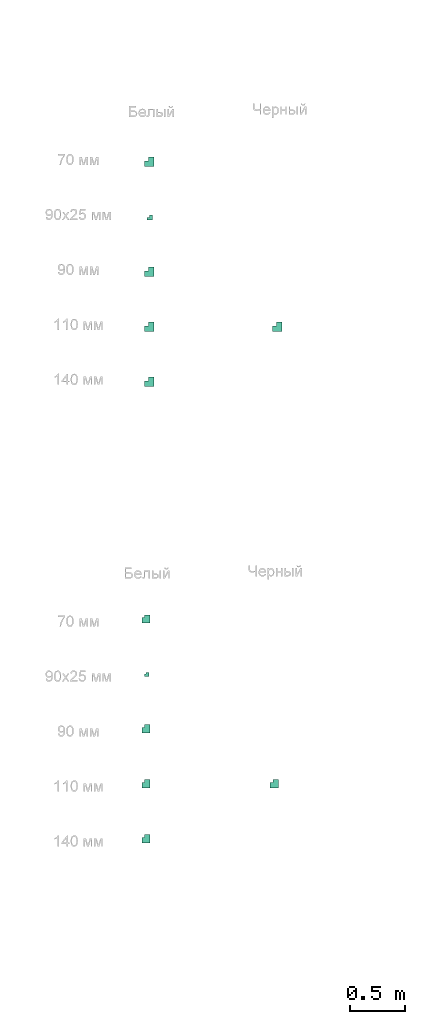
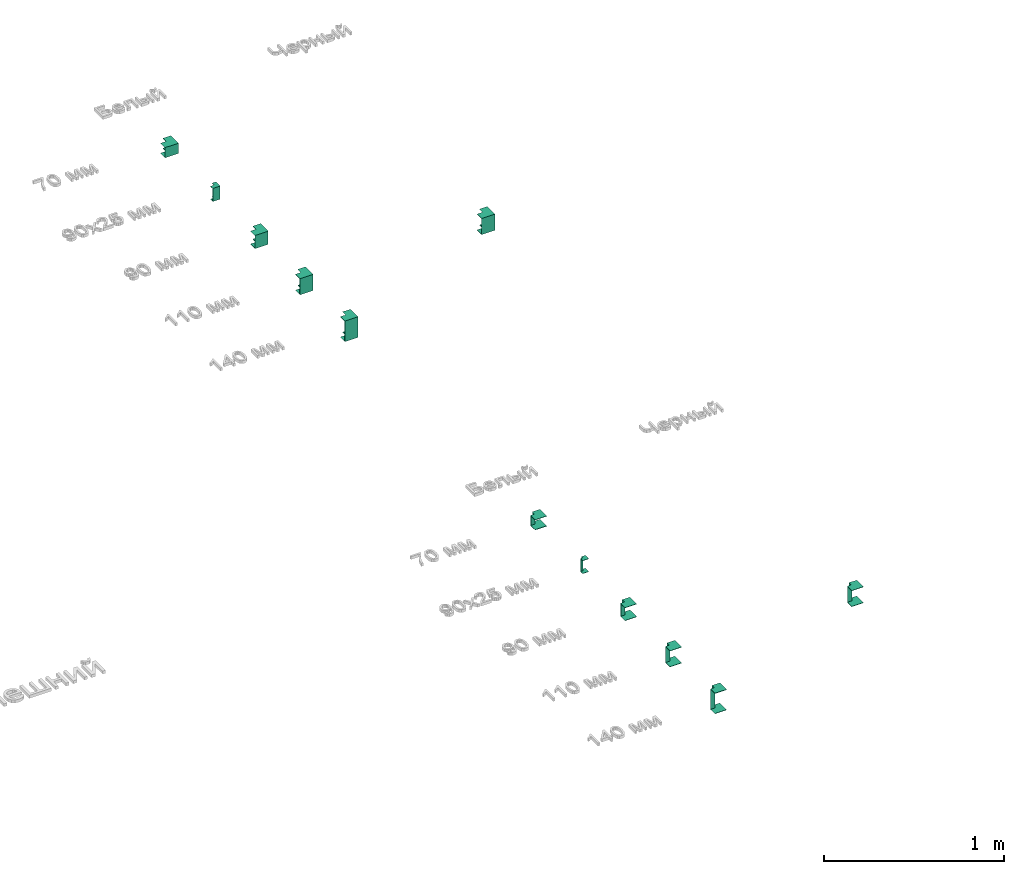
# One storey, part 18 of 87: 12 flow fittings.
"""IFC2X3 building model written with IfcOpenShell, lengths in millimetres."""

from ifc_helpers import new_model, entity, si_unit, converted_unit, derived_unit, direction, frame, origin, place, context, subcontext, project, spatial, faceted_brep, source, transform, mapped, material, type_object, type_shapes, element, save


model = new_model("IFC2X3")

# Units and contexts
model_context = context("Model", 3, precision=0.01, world=origin(), true_north=direction((6.12303176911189e-17, 1.0)))
body_context = subcontext(model_context, "Body", "Model", "MODEL_VIEW")
ifc_project = project(units=[si_unit("LENGTHUNIT", "METRE", prefix="MILLI"), si_unit("AREAUNIT", "SQUARE_METRE"), si_unit("VOLUMEUNIT", "CUBIC_METRE"), converted_unit("PLANEANGLEUNIT", "DEGREE", entity("IfcRatioMeasure", 0.0174532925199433), si_unit("PLANEANGLEUNIT", "RADIAN"), dimensions=[0, 0, 0, 0, 0, 0, 0]), si_unit("MASSUNIT", "GRAM", prefix="KILO"), derived_unit("MASSDENSITYUNIT", [(si_unit("MASSUNIT", "GRAM", prefix="KILO"), 1), (si_unit("LENGTHUNIT", "METRE"), -3)]), si_unit("TIMEUNIT", "SECOND"), si_unit("FREQUENCYUNIT", "HERTZ"), si_unit("THERMODYNAMICTEMPERATUREUNIT", "DEGREE_CELSIUS"), derived_unit("THERMALTRANSMITTANCEUNIT", [(si_unit("MASSUNIT", "GRAM", prefix="KILO"), 1), (si_unit("THERMODYNAMICTEMPERATUREUNIT", "KELVIN"), -1), (si_unit("TIMEUNIT", "SECOND"), -3)]), derived_unit("VOLUMETRICFLOWRATEUNIT", [(si_unit("LENGTHUNIT", "METRE"), 3), (si_unit("TIMEUNIT", "SECOND"), -1)]), si_unit("ELECTRICCURRENTUNIT", "AMPERE"), si_unit("ELECTRICVOLTAGEUNIT", "VOLT"), si_unit("POWERUNIT", "WATT"), si_unit("FORCEUNIT", "NEWTON", prefix="KILO"), si_unit("ILLUMINANCEUNIT", "LUX"), si_unit("LUMINOUSFLUXUNIT", "LUMEN"), si_unit("LUMINOUSINTENSITYUNIT", "CANDELA"), derived_unit("USERDEFINED", [(si_unit("MASSUNIT", "GRAM", prefix="KILO"), -1), (si_unit("LENGTHUNIT", "METRE"), -2), (si_unit("TIMEUNIT", "SECOND"), 3), (si_unit("LUMINOUSFLUXUNIT", "LUMEN"), 1)]), derived_unit("LINEARVELOCITYUNIT", [(si_unit("LENGTHUNIT", "METRE"), 1), (si_unit("TIMEUNIT", "SECOND"), -1)]), si_unit("PRESSUREUNIT", "PASCAL"), derived_unit("USERDEFINED", [(si_unit("LENGTHUNIT", "METRE"), -2), (si_unit("MASSUNIT", "GRAM", prefix="KILO"), 1), (si_unit("TIMEUNIT", "SECOND"), -2)])], contexts=[model_context])

# Site, building, storey
site_placement = place(None, origin())
site = spatial("IfcSite", under=ifc_project, at=site_placement, Name="Default", CompositionType="ELEMENT")
building_placement = place(site_placement, origin())
building = spatial("IfcBuilding", under=site, at=building_placement, Name="Наименование здания", CompositionType="ELEMENT")
storey_placement = place(building_placement, origin())
storey = spatial("IfcBuildingStorey", under=building, at=storey_placement, Name="Этаж 01", CompositionType="ELEMENT", Elevation=0.0)

# Flow fittings
ifc_material_1 = material(Name="DKC_Пластик_Белый")
cable_carrier_fitting_type_1 = type_object("IfcCableCarrierFittingType", Name="Белый", PredefinedType="NOTDEFINED", material=ifc_material_1)
shared_shape_1 = source(origin(), body_context, "Body", "Brep", [
    faceted_brep([(-60.0, -25.0, 35.0), (-60.0, 25.0, 35.0), (-60.0, 25.0, 32.5000000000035), (-60.0, -22.4999999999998, 32.5000000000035), (-60.0, -22.4999999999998, -32.4999999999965), (-60.0, 25.0, -32.4999999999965), (-60.0, 25.0, -35.0), (-60.0, -25.0, -35.0), (25.0, 60.0, 35.0), (25.0, 60.0, -35.0), (-25.0, 60.0, -35.0), (-25.0, 60.0, -32.4999999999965), (22.5000000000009, 60.0, -32.4999999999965), (22.5000000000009, 60.0, 32.5000000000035), (-25.0, 60.0, 32.5000000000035), (-25.0, 60.0, 35.0), (25.0, -25.0, 35.0), (-25.0, 25.0, 35.0), (-25.0, 25.0, 32.5000000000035), (22.5000000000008, -22.5000000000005, 32.5000000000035), (22.5000000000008, -22.5000000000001, -32.4999999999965), (-25.0, 25.0, -32.4999999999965), (-25.0, 25.0, -35.0), (25.0, -25.0, -35.0)], [[[0, 1, 2, 3, 4, 5, 6, 7]], [[8, 9, 10, 11, 12, 13, 14, 15]], [[1, 0, 16, 8, 15, 17]], [[2, 1, 17, 18]], [[3, 2, 18, 14, 13, 19]], [[4, 3, 19, 20]], [[5, 4, 20, 12, 11, 21]], [[6, 5, 21, 22]], [[7, 6, 22, 10, 9, 23]], [[0, 7, 23, 16]], [[18, 17, 15, 14]], [[20, 19, 13, 12]], [[22, 21, 11, 10]], [[16, 23, 9, 8]]]),
])
type_shapes(cable_carrier_fitting_type_1, [shared_shape_1])
flow_fitting_1_placement = place(storey_placement, frame((13049.1175194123, -9012.43030677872, 0.0)))
element("IfcFlowFitting", 1, at=flow_fitting_1_placement, inside=storey, type_object=cable_carrier_fitting_type_1, material=ifc_material_1, Name="КНС_УголВнутренний_ILF_DKC:Белый", ObjectType="Белый", context=body_context, shape_type="MappedRepresentation", body=[
    mapped(shared_shape_1, transform((0.0, 0.0, 0.0), scale=1.0)),
])
cable_carrier_fitting_type_2 = type_object("IfcCableCarrierFittingType", Name="Белый", PredefinedType="NOTDEFINED", material=ifc_material_1)
shared_shape_2 = source(origin(), body_context, "Body", "Brep", [
    faceted_brep([(-50.0, 25.0, 35.0), (-50.0, 25.0, -35.0), (-50.0, -25.0, -35.0), (-50.0, -25.0, -32.4999999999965), (-50.0, 22.5000000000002, -32.4999999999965), (-50.0, 22.5000000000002, 32.5000000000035), (-50.0, -25.0, 32.5000000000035), (-50.0, -25.0, 35.0), (-25.0, 50.0, 35.0), (25.0, 50.0, 35.0), (25.0, 50.0, 32.5000000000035), (-22.499999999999, 50.0, 32.5000000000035), (-22.499999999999, 50.0, -32.4999999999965), (25.0, 50.0, -32.4999999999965), (25.0, 50.0, -35.0), (-25.0, 50.0, -35.0), (-25.0, 25.0, 35.0), (-25.0, 25.0, -35.0), (25.0, -25.0, -35.0), (25.0, -25.0, -32.4999999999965), (-22.4999999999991, 22.4999999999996, -32.4999999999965), (-22.4999999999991, 22.5000000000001, 32.5000000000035), (25.0, -25.0, 32.5000000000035), (25.0, -25.0, 35.0)], [[[0, 1, 2, 3, 4, 5, 6, 7]], [[8, 9, 10, 11, 12, 13, 14, 15]], [[1, 0, 16, 17]], [[2, 1, 17, 15, 14, 18]], [[3, 2, 18, 19]], [[4, 3, 19, 13, 12, 20]], [[5, 4, 20, 21]], [[6, 5, 21, 11, 10, 22]], [[7, 6, 22, 23]], [[0, 7, 23, 9, 8, 16]], [[17, 16, 8, 15]], [[19, 18, 14, 13]], [[21, 20, 12, 11]], [[23, 22, 10, 9]]]),
])
type_shapes(cable_carrier_fitting_type_2, [shared_shape_2])
flow_fitting_2_placement = place(storey_placement, frame((13017.1547740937, -13165.7198788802, 0.0)))
element("IfcFlowFitting", 2, at=flow_fitting_2_placement, inside=storey, type_object=cable_carrier_fitting_type_2, material=ifc_material_1, Name="КНС_УголВнешний_ILF_DKC:Белый", ObjectType="Белый", context=body_context, shape_type="MappedRepresentation", body=[
    mapped(shared_shape_2, transform((0.0, 0.0, 0.0), scale=1.0)),
])
cable_carrier_fitting_type_3 = type_object("IfcCableCarrierFittingType", Name="Белый", PredefinedType="NOTDEFINED", material=ifc_material_1)
shared_shape_3 = source(origin(), body_context, "Body", "Brep", [
    faceted_brep([(-35.0, -12.4999999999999, 45.0), (-35.0, 12.5000000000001, 45.0), (-35.0, 12.5000000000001, 42.5000000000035), (-35.0, -10.0, 42.5000000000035), (-35.0, -10.0, -42.4999999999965), (-35.0, 12.5000000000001, -42.4999999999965), (-35.0, 12.5000000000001, -45.0), (-35.0, -12.4999999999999, -45.0), (12.5000000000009, 35.0, 45.0), (12.5000000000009, 35.0, -45.0), (-12.4999999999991, 35.0, -45.0), (-12.4999999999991, 35.0, -42.4999999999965), (10.0, 35.0, -42.4999999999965), (10.0, 35.0, 42.5000000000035), (-12.4999999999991, 35.0, 42.5000000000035), (-12.4999999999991, 35.0, 45.0), (12.5000000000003, -12.5, 45.0), (-12.4999999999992, 12.4999999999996, 45.0), (-12.4999999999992, 12.5, 42.5000000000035), (10.0, -10.0, 42.5000000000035), (10.0, -10.0, -42.4999999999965), (-12.4999999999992, 12.4999999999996, -42.4999999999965), (-12.4999999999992, 12.5, -45.0), (12.5000000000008, -12.5000000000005, -45.0)], [[[0, 1, 2, 3, 4, 5, 6, 7]], [[8, 9, 10, 11, 12, 13, 14, 15]], [[1, 0, 16, 8, 15, 17]], [[2, 1, 17, 18]], [[3, 2, 18, 14, 13, 19]], [[4, 3, 19, 20]], [[5, 4, 20, 12, 11, 21]], [[6, 5, 21, 22]], [[7, 6, 22, 10, 9, 23]], [[0, 7, 23, 16]], [[18, 17, 15, 14]], [[20, 19, 13, 12]], [[22, 21, 11, 10]], [[16, 23, 9, 8]]]),
])
type_shapes(cable_carrier_fitting_type_3, [shared_shape_3])
flow_fitting_3_placement = place(storey_placement, frame((13049.1175194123, -9512.43030677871, 0.0)))
element("IfcFlowFitting", 3, at=flow_fitting_3_placement, inside=storey, type_object=cable_carrier_fitting_type_3, material=ifc_material_1, Name="КНС_УголВнутренний_ILF_DKC:Белый", ObjectType="Белый", context=body_context, shape_type="MappedRepresentation", body=[
    mapped(shared_shape_3, transform((0.0, 0.0, 0.0), scale=1.0)),
])
cable_carrier_fitting_type_4 = type_object("IfcCableCarrierFittingType", Name="Белый", PredefinedType="NOTDEFINED", material=ifc_material_1)
shared_shape_4 = source(origin(), body_context, "Body", "Brep", [
    faceted_brep([(-60.0, -25.0, 45.0), (-60.0, 25.0, 45.0), (-60.0, 25.0, 42.5000000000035), (-60.0, -22.4999999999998, 42.5000000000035), (-60.0, -22.4999999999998, -42.4999999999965), (-60.0, 25.0, -42.4999999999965), (-60.0, 25.0, -45.0), (-60.0, -25.0, -45.0), (25.0, 60.0, 45.0), (25.0, 60.0, -45.0), (-25.0, 60.0, -45.0), (-25.0, 60.0, -42.4999999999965), (22.5000000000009, 60.0, -42.4999999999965), (22.5000000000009, 60.0, 42.5000000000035), (-25.0, 60.0, 42.5000000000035), (-25.0, 60.0, 45.0), (25.0, -25.0, 45.0), (-25.0, 25.0, 45.0), (-25.0, 25.0, 42.5000000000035), (22.5000000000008, -22.5000000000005, 42.5000000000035), (22.5000000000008, -22.5000000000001, -42.4999999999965), (-25.0, 25.0, -42.4999999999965), (-25.0, 25.0, -45.0), (25.0, -25.0, -45.0)], [[[0, 1, 2, 3, 4, 5, 6, 7]], [[8, 9, 10, 11, 12, 13, 14, 15]], [[1, 0, 16, 8, 15, 17]], [[2, 1, 17, 18]], [[3, 2, 18, 14, 13, 19]], [[4, 3, 19, 20]], [[5, 4, 20, 12, 11, 21]], [[6, 5, 21, 22]], [[7, 6, 22, 10, 9, 23]], [[0, 7, 23, 16]], [[18, 17, 15, 14]], [[20, 19, 13, 12]], [[22, 21, 11, 10]], [[16, 23, 9, 8]]]),
])
type_shapes(cable_carrier_fitting_type_4, [shared_shape_4])
flow_fitting_4_placement = place(storey_placement, frame((13049.1175194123, -10012.4303067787, 0.0)))
element("IfcFlowFitting", 4, at=flow_fitting_4_placement, inside=storey, type_object=cable_carrier_fitting_type_4, material=ifc_material_1, Name="КНС_УголВнутренний_ILF_DKC:Белый", ObjectType="Белый", context=body_context, shape_type="MappedRepresentation", body=[
    mapped(shared_shape_4, transform((0.0, 0.0, 0.0), scale=1.0)),
])
cable_carrier_fitting_type_5 = type_object("IfcCableCarrierFittingType", Name="Белый", PredefinedType="NOTDEFINED", material=ifc_material_1)
shared_shape_5 = source(origin(), body_context, "Body", "Brep", [
    faceted_brep([(-60.0, -25.0, 55.0), (-60.0, 25.0, 55.0), (-60.0, 25.0, 52.5000000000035), (-60.0, -22.4999999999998, 52.5000000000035), (-60.0, -22.4999999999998, -52.4999999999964), (-60.0, 25.0, -52.4999999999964), (-60.0, 25.0, -55.0), (-60.0, -25.0, -55.0), (25.0, 60.0, 55.0), (25.0, 60.0, -55.0), (-25.0, 60.0, -55.0), (-25.0, 60.0, -52.4999999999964), (22.5000000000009, 60.0, -52.4999999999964), (22.5000000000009, 60.0, 52.5000000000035), (-25.0, 60.0, 52.5000000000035), (-25.0, 60.0, 55.0), (25.0, -25.0, 55.0), (-25.0, 25.0, 55.0), (-25.0, 25.0, 52.5000000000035), (22.5000000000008, -22.5000000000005, 52.5000000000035), (22.5000000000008, -22.5000000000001, -52.4999999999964), (-25.0, 25.0, -52.4999999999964), (-25.0, 25.0, -55.0), (25.0, -25.0, -55.0)], [[[0, 1, 2, 3, 4, 5, 6, 7]], [[8, 9, 10, 11, 12, 13, 14, 15]], [[1, 0, 16, 8, 15, 17]], [[2, 1, 17, 18]], [[3, 2, 18, 14, 13, 19]], [[4, 3, 19, 20]], [[5, 4, 20, 12, 11, 21]], [[6, 5, 21, 22]], [[7, 6, 22, 10, 9, 23]], [[0, 7, 23, 16]], [[18, 17, 15, 14]], [[20, 19, 13, 12]], [[22, 21, 11, 10]], [[16, 23, 9, 8]]]),
])
type_shapes(cable_carrier_fitting_type_5, [shared_shape_5])
flow_fitting_5_placement = place(storey_placement, frame((13049.1175194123, -10512.4303067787, 0.0)))
element("IfcFlowFitting", 5, at=flow_fitting_5_placement, inside=storey, type_object=cable_carrier_fitting_type_5, material=ifc_material_1, Name="КНС_УголВнутренний_ILF_DKC:Белый", ObjectType="Белый", context=body_context, shape_type="MappedRepresentation", body=[
    mapped(shared_shape_5, transform((0.0, 0.0, 0.0), scale=1.0)),
])
cable_carrier_fitting_type_6 = type_object("IfcCableCarrierFittingType", Name="Белый", PredefinedType="NOTDEFINED", material=ifc_material_1)
shared_shape_6 = source(origin(), body_context, "Body", "Brep", [
    faceted_brep([(-60.0, -25.0, 70.0), (-60.0, 25.0, 70.0), (-60.0, 25.0, 67.5000000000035), (-60.0, -22.4999999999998, 67.5000000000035), (-60.0, -22.4999999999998, -67.4999999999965), (-60.0, 25.0, -67.4999999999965), (-60.0, 25.0, -70.0), (-60.0, -25.0, -70.0), (25.0, 60.0, 70.0), (25.0, 60.0, -70.0), (-25.0, 60.0, -70.0), (-25.0, 60.0, -67.4999999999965), (22.5000000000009, 60.0, -67.4999999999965), (22.5000000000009, 60.0, 67.5000000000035), (-25.0, 60.0, 67.5000000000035), (-25.0, 60.0, 70.0), (25.0, -25.0, 70.0), (-25.0, 25.0, 70.0), (-25.0, 25.0, 67.5000000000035), (22.5000000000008, -22.5000000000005, 67.5000000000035), (22.5000000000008, -22.5000000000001, -67.4999999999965), (-25.0, 25.0, -67.4999999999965), (-25.0, 25.0, -70.0), (25.0, -25.0, -70.0)], [[[0, 1, 2, 3, 4, 5, 6, 7]], [[8, 9, 10, 11, 12, 13, 14, 15]], [[1, 0, 16, 8, 15, 17]], [[2, 1, 17, 18]], [[3, 2, 18, 14, 13, 19]], [[4, 3, 19, 20]], [[5, 4, 20, 12, 11, 21]], [[6, 5, 21, 22]], [[7, 6, 22, 10, 9, 23]], [[0, 7, 23, 16]], [[18, 17, 15, 14]], [[20, 19, 13, 12]], [[22, 21, 11, 10]], [[16, 23, 9, 8]]]),
])
type_shapes(cable_carrier_fitting_type_6, [shared_shape_6])
flow_fitting_6_placement = place(storey_placement, frame((13049.1175194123, -11012.4303067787, 0.0)))
element("IfcFlowFitting", 6, at=flow_fitting_6_placement, inside=storey, type_object=cable_carrier_fitting_type_6, material=ifc_material_1, Name="КНС_УголВнутренний_ILF_DKC:Белый", ObjectType="Белый", context=body_context, shape_type="MappedRepresentation", body=[
    mapped(shared_shape_6, transform((0.0, 0.0, 0.0), scale=1.0)),
])
ifc_material_2 = material(Name="DKC_Пластик_Серо-черный")
cable_carrier_fitting_type_7 = type_object("IfcCableCarrierFittingType", Name="Черный", PredefinedType="NOTDEFINED", material=ifc_material_2)
shared_shape_7 = source(origin(), body_context, "Body", "Brep", [
    faceted_brep([(-60.0, -25.0, 55.0), (-60.0, 25.0, 55.0), (-60.0, 25.0, 52.5000000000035), (-60.0, -22.4999999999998, 52.5000000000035), (-60.0, -22.4999999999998, -52.4999999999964), (-60.0, 25.0, -52.4999999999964), (-60.0, 25.0, -55.0), (-60.0, -25.0, -55.0), (25.0, 60.0, 55.0), (25.0, 60.0, -55.0), (-25.0, 60.0, -55.0), (-25.0, 60.0, -52.4999999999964), (22.5000000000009, 60.0, -52.4999999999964), (22.5000000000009, 60.0, 52.5000000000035), (-25.0, 60.0, 52.5000000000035), (-25.0, 60.0, 55.0), (25.0, -25.0, 55.0), (-25.0, 25.0, 55.0), (-25.0, 25.0, 52.5000000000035), (22.5000000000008, -22.5000000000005, 52.5000000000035), (22.5000000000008, -22.5000000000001, -52.4999999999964), (-25.0, 25.0, -52.4999999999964), (-25.0, 25.0, -55.0), (25.0, -25.0, -55.0)], [[[0, 1, 2, 3, 4, 5, 6, 7]], [[8, 9, 10, 11, 12, 13, 14, 15]], [[1, 0, 16, 8, 15, 17]], [[2, 1, 17, 18]], [[3, 2, 18, 14, 13, 19]], [[4, 3, 19, 20]], [[5, 4, 20, 12, 11, 21]], [[6, 5, 21, 22]], [[7, 6, 22, 10, 9, 23]], [[0, 7, 23, 16]], [[18, 17, 15, 14]], [[20, 19, 13, 12]], [[22, 21, 11, 10]], [[16, 23, 9, 8]]]),
])
type_shapes(cable_carrier_fitting_type_7, [shared_shape_7])
flow_fitting_7_placement = place(storey_placement, frame((14215.9370915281, -10512.4303067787, 0.0)))
element("IfcFlowFitting", 7, at=flow_fitting_7_placement, inside=storey, type_object=cable_carrier_fitting_type_7, material=ifc_material_2, Name="КНС_УголВнутренний_ILF_DKC:Черный", ObjectType="Черный", context=body_context, shape_type="MappedRepresentation", body=[
    mapped(shared_shape_7, transform((0.0, 0.0, 0.0), scale=1.0)),
])
cable_carrier_fitting_type_8 = type_object("IfcCableCarrierFittingType", Name="Белый", PredefinedType="NOTDEFINED", material=ifc_material_1)
shared_shape_8 = source(origin(), body_context, "Body", "Brep", [
    faceted_brep([(-25.0, 12.5000000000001, 45.0), (-25.0, 12.5000000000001, -45.0), (-25.0, -12.4999999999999, -45.0), (-25.0, -12.4999999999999, -42.4999999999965), (-25.0, 10.0, -42.4999999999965), (-25.0, 10.0, 42.5000000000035), (-25.0, -12.4999999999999, 42.5000000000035), (-25.0, -12.4999999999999, 45.0), (-12.4999999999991, 25.0, 45.0), (12.5000000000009, 25.0, 45.0), (12.5000000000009, 25.0, 42.5000000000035), (-10.0, 25.0, 42.5000000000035), (-10.0, 25.0, -42.4999999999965), (12.5000000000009, 25.0, -42.4999999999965), (12.5000000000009, 25.0, -45.0), (-12.4999999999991, 25.0, -45.0), (-12.4999999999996, 12.5, 45.0), (-12.4999999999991, 12.5, -45.0), (12.5000000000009, -12.5000000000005, -45.0), (12.5000000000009, -12.5, -42.4999999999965), (-10.0, 10.0, -42.4999999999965), (-10.0, 10.0, 42.5000000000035), (12.5000000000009, -12.5000000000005, 42.5000000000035), (12.5000000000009, -12.5, 45.0)], [[[0, 1, 2, 3, 4, 5, 6, 7]], [[8, 9, 10, 11, 12, 13, 14, 15]], [[1, 0, 16, 17]], [[2, 1, 17, 15, 14, 18]], [[3, 2, 18, 19]], [[4, 3, 19, 13, 12, 20]], [[5, 4, 20, 21]], [[6, 5, 21, 11, 10, 22]], [[7, 6, 22, 23]], [[0, 7, 23, 9, 8, 16]], [[17, 16, 8, 15]], [[19, 18, 14, 13]], [[21, 20, 12, 11]], [[23, 22, 10, 9]]]),
])
type_shapes(cable_carrier_fitting_type_8, [shared_shape_8])
flow_fitting_8_placement = place(storey_placement, frame((13017.1547740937, -13665.7198788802, 0.0)))
element("IfcFlowFitting", 8, at=flow_fitting_8_placement, inside=storey, type_object=cable_carrier_fitting_type_8, material=ifc_material_1, Name="КНС_УголВнешний_ILF_DKC:Белый", ObjectType="Белый", context=body_context, shape_type="MappedRepresentation", body=[
    mapped(shared_shape_8, transform((0.0, 0.0, 0.0), scale=1.0)),
])
cable_carrier_fitting_type_9 = type_object("IfcCableCarrierFittingType", Name="Белый", PredefinedType="NOTDEFINED", material=ifc_material_1)
shared_shape_9 = source(origin(), body_context, "Body", "Brep", [
    faceted_brep([(-50.0, 25.0, 45.0), (-50.0, 25.0, -45.0), (-50.0, -25.0, -45.0), (-50.0, -25.0, -42.4999999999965), (-50.0, 22.5000000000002, -42.4999999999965), (-50.0, 22.5000000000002, 42.5000000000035), (-50.0, -25.0, 42.5000000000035), (-50.0, -25.0, 45.0), (-25.0, 50.0, 45.0), (25.0, 50.0, 45.0), (25.0, 50.0, 42.5000000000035), (-22.499999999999, 50.0, 42.5000000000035), (-22.499999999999, 50.0, -42.4999999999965), (25.0, 50.0, -42.4999999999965), (25.0, 50.0, -45.0), (-25.0, 50.0, -45.0), (-25.0, 25.0, 45.0), (-25.0, 25.0, -45.0), (25.0, -25.0, -45.0), (25.0, -25.0, -42.4999999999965), (-22.4999999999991, 22.4999999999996, -42.4999999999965), (-22.4999999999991, 22.5000000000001, 42.5000000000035), (25.0, -25.0, 42.5000000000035), (25.0, -25.0, 45.0)], [[[0, 1, 2, 3, 4, 5, 6, 7]], [[8, 9, 10, 11, 12, 13, 14, 15]], [[1, 0, 16, 17]], [[2, 1, 17, 15, 14, 18]], [[3, 2, 18, 19]], [[4, 3, 19, 13, 12, 20]], [[5, 4, 20, 21]], [[6, 5, 21, 11, 10, 22]], [[7, 6, 22, 23]], [[0, 7, 23, 9, 8, 16]], [[17, 16, 8, 15]], [[19, 18, 14, 13]], [[21, 20, 12, 11]], [[23, 22, 10, 9]]]),
])
type_shapes(cable_carrier_fitting_type_9, [shared_shape_9])
flow_fitting_9_placement = place(storey_placement, frame((13017.1547740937, -14165.7198788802, 0.0)))
element("IfcFlowFitting", 9, at=flow_fitting_9_placement, inside=storey, type_object=cable_carrier_fitting_type_9, material=ifc_material_1, Name="КНС_УголВнешний_ILF_DKC:Белый", ObjectType="Белый", context=body_context, shape_type="MappedRepresentation", body=[
    mapped(shared_shape_9, transform((0.0, 0.0, 0.0), scale=1.0)),
])
cable_carrier_fitting_type_10 = type_object("IfcCableCarrierFittingType", Name="Белый", PredefinedType="NOTDEFINED", material=ifc_material_1)
shared_shape_10 = source(origin(), body_context, "Body", "Brep", [
    faceted_brep([(-50.0, 25.0, 55.0), (-50.0, 25.0, -55.0), (-50.0, -25.0, -55.0), (-50.0, -25.0, -52.4999999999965), (-50.0, 22.5000000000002, -52.4999999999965), (-50.0, 22.5000000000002, 52.5000000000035), (-50.0, -25.0, 52.5000000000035), (-50.0, -25.0, 55.0), (-25.0, 50.0, 55.0), (25.0, 50.0, 55.0), (25.0, 50.0, 52.5000000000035), (-22.499999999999, 50.0, 52.5000000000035), (-22.499999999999, 50.0, -52.4999999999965), (25.0, 50.0, -52.4999999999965), (25.0, 50.0, -55.0), (-25.0, 50.0, -55.0), (-25.0, 25.0, 55.0), (-25.0, 25.0, -55.0), (25.0, -25.0, -55.0), (25.0, -25.0, -52.4999999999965), (-22.4999999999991, 22.4999999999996, -52.4999999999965), (-22.4999999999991, 22.5000000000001, 52.5000000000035), (25.0, -25.0, 52.5000000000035), (25.0, -25.0, 55.0)], [[[0, 1, 2, 3, 4, 5, 6, 7]], [[8, 9, 10, 11, 12, 13, 14, 15]], [[1, 0, 16, 17]], [[2, 1, 17, 15, 14, 18]], [[3, 2, 18, 19]], [[4, 3, 19, 13, 12, 20]], [[5, 4, 20, 21]], [[6, 5, 21, 11, 10, 22]], [[7, 6, 22, 23]], [[0, 7, 23, 9, 8, 16]], [[17, 16, 8, 15]], [[19, 18, 14, 13]], [[21, 20, 12, 11]], [[23, 22, 10, 9]]]),
])
type_shapes(cable_carrier_fitting_type_10, [shared_shape_10])
flow_fitting_10_placement = place(storey_placement, frame((13017.1547740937, -14665.7198788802, 0.0)))
element("IfcFlowFitting", 10, at=flow_fitting_10_placement, inside=storey, type_object=cable_carrier_fitting_type_10, material=ifc_material_1, Name="КНС_УголВнешний_ILF_DKC:Белый", ObjectType="Белый", context=body_context, shape_type="MappedRepresentation", body=[
    mapped(shared_shape_10, transform((0.0, 0.0, 0.0), scale=1.0)),
])
cable_carrier_fitting_type_11 = type_object("IfcCableCarrierFittingType", Name="Белый", PredefinedType="NOTDEFINED", material=ifc_material_1)
shared_shape_11 = source(origin(), body_context, "Body", "Brep", [
    faceted_brep([(-50.0, 25.0, 70.0), (-50.0, 25.0, -70.0), (-50.0, -25.0, -70.0), (-50.0, -25.0, -67.4999999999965), (-50.0, 22.5000000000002, -67.4999999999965), (-50.0, 22.5000000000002, 67.5000000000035), (-50.0, -25.0, 67.5000000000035), (-50.0, -25.0, 70.0), (-25.0, 50.0, 70.0), (25.0, 50.0, 70.0), (25.0, 50.0, 67.5000000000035), (-22.499999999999, 50.0, 67.5000000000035), (-22.499999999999, 50.0, -67.4999999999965), (25.0, 50.0, -67.4999999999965), (25.0, 50.0, -70.0), (-25.0, 50.0, -70.0), (-25.0, 25.0, 70.0), (-25.0, 25.0, -70.0), (25.0, -25.0, -70.0), (25.0, -25.0, -67.4999999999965), (-22.4999999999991, 22.4999999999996, -67.4999999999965), (-22.4999999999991, 22.5000000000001, 67.5000000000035), (25.0, -25.0, 67.5000000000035), (25.0, -25.0, 70.0)], [[[0, 1, 2, 3, 4, 5, 6, 7]], [[8, 9, 10, 11, 12, 13, 14, 15]], [[1, 0, 16, 17]], [[2, 1, 17, 15, 14, 18]], [[3, 2, 18, 19]], [[4, 3, 19, 13, 12, 20]], [[5, 4, 20, 21]], [[6, 5, 21, 11, 10, 22]], [[7, 6, 22, 23]], [[0, 7, 23, 9, 8, 16]], [[17, 16, 8, 15]], [[19, 18, 14, 13]], [[21, 20, 12, 11]], [[23, 22, 10, 9]]]),
])
type_shapes(cable_carrier_fitting_type_11, [shared_shape_11])
flow_fitting_11_placement = place(storey_placement, frame((13017.1547740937, -15165.7198788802, 0.0)))
element("IfcFlowFitting", 11, at=flow_fitting_11_placement, inside=storey, type_object=cable_carrier_fitting_type_11, material=ifc_material_1, Name="КНС_УголВнешний_ILF_DKC:Белый", ObjectType="Белый", context=body_context, shape_type="MappedRepresentation", body=[
    mapped(shared_shape_11, transform((0.0, 0.0, 0.0), scale=1.0)),
])
cable_carrier_fitting_type_12 = type_object("IfcCableCarrierFittingType", Name="Черный", PredefinedType="NOTDEFINED", material=ifc_material_2)
shared_shape_12 = source(origin(), body_context, "Body", "Brep", [
    faceted_brep([(-50.0, 25.0, 55.0), (-50.0, 25.0, -55.0), (-50.0, -25.0, -55.0), (-50.0, -25.0, -52.4999999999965), (-50.0, 22.5000000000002, -52.4999999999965), (-50.0, 22.5000000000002, 52.5000000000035), (-50.0, -25.0, 52.5000000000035), (-50.0, -25.0, 55.0), (-25.0, 50.0, 55.0), (25.0, 50.0, 55.0), (25.0, 50.0, 52.5000000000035), (-22.499999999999, 50.0, 52.5000000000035), (-22.499999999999, 50.0, -52.4999999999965), (25.0, 50.0, -52.4999999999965), (25.0, 50.0, -55.0), (-25.0, 50.0, -55.0), (-25.0, 25.0, 55.0), (-25.0, 25.0, -55.0), (25.0, -25.0, -55.0), (25.0, -25.0, -52.4999999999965), (-22.4999999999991, 22.4999999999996, -52.4999999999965), (-22.4999999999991, 22.5000000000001, 52.5000000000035), (25.0, -25.0, 52.5000000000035), (25.0, -25.0, 55.0)], [[[0, 1, 2, 3, 4, 5, 6, 7]], [[8, 9, 10, 11, 12, 13, 14, 15]], [[1, 0, 16, 17]], [[2, 1, 17, 15, 14, 18]], [[3, 2, 18, 19]], [[4, 3, 19, 13, 12, 20]], [[5, 4, 20, 21]], [[6, 5, 21, 11, 10, 22]], [[7, 6, 22, 23]], [[0, 7, 23, 9, 8, 16]], [[17, 16, 8, 15]], [[19, 18, 14, 13]], [[21, 20, 12, 11]], [[23, 22, 10, 9]]]),
])
type_shapes(cable_carrier_fitting_type_12, [shared_shape_12])
flow_fitting_12_placement = place(storey_placement, frame((14183.9743462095, -14665.7198788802, 0.0)))
element("IfcFlowFitting", 12, at=flow_fitting_12_placement, inside=storey, type_object=cable_carrier_fitting_type_12, material=ifc_material_2, Name="КНС_УголВнешний_ILF_DKC:Черный", ObjectType="Черный", context=body_context, shape_type="MappedRepresentation", body=[
    mapped(shared_shape_12, transform((0.0, 0.0, 0.0), scale=1.0)),
])

save(model, "model.ifc")
